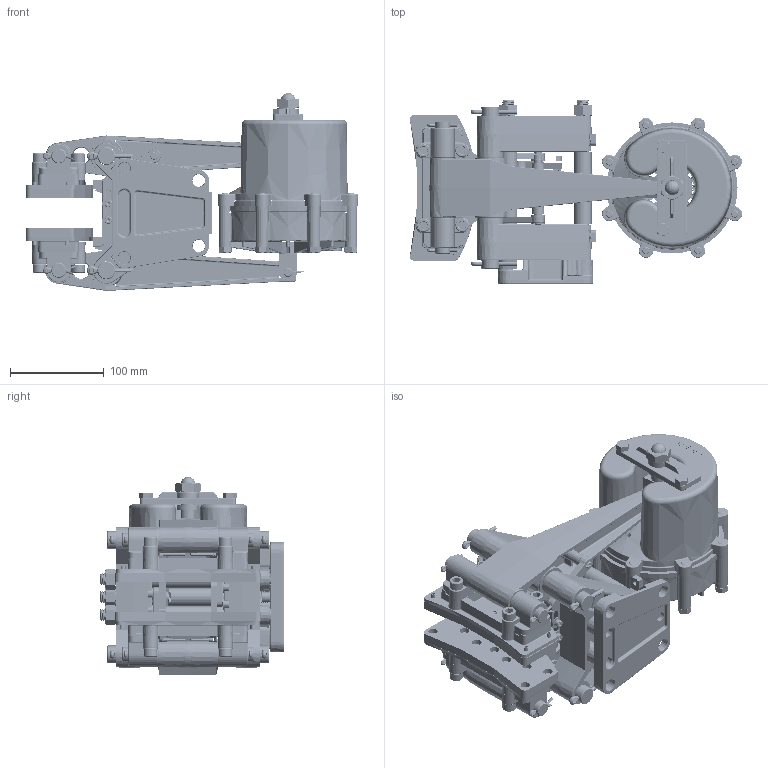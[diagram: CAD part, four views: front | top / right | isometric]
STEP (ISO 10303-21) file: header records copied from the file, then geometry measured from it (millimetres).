
FILE_DESCRIPTION (( 'STEP AP214' ), '1' );
FILE_NAME ('5020-SA-LH.STEP', '2016-06-02T17:33:10', ( 'User' ), ( 'Microsoft' ), 'SwSTEP 2.0', 'SolidWorks 2015', '' );
FILE_SCHEMA (( 'AUTOMOTIVE_DESIGN' ));
Length unit declared in the file: inch
Products named in the file (1): 5020-SA-LH
Bounding box: 354 x 195.9 x 211.12 mm (x, y, z)
Surface area: 580259.2 mm2 (no closed solid volume)
Topology: 0 solids, 153 shells, 3406 faces, 10486 edges, 6846 vertices
Faces by surface type: cylinder 927, plane 879, cone 604, torus 489, bspline 477, sphere 30
Entity records: 189749 total; most frequent: CARTESIAN_POINT 59065, DIRECTION 17831, ORIENTED_EDGE 16955, EDGE_CURVE 10408, AXIS2_PLACEMENT_3D 7164, VERTEX_POINT 6846, CIRCLE 4234, EDGE_LOOP 3719
